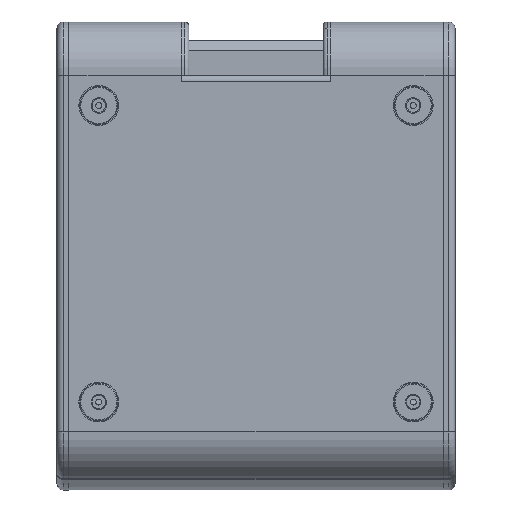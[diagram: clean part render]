
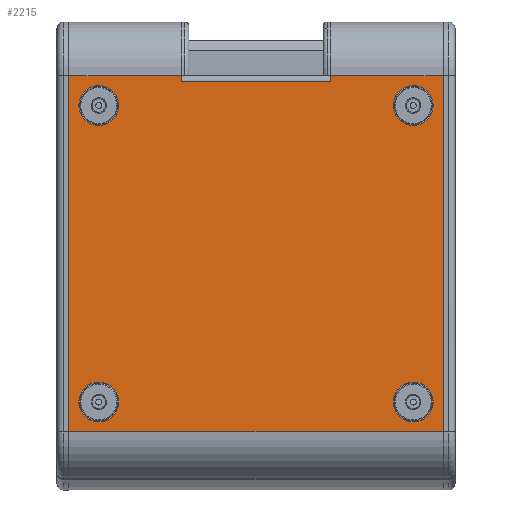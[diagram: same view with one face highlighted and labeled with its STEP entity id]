
A CAD part, front view. The second image highlights one B-rep face of the part: STEP entity #2215.
In plain terms, the highlighted planar face has unit normal (0, -1, 0).
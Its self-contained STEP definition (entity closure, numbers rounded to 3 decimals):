
#1817 = VERTEX_POINT ( 'NONE', #8006 ) ;
#1819 = EDGE_CURVE ( 'NONE', #1817, #1820, #8005, .T. ) ;
#1820 = VERTEX_POINT ( 'NONE', #8060 ) ;
#1833 = VERTEX_POINT ( 'NONE', #8032 ) ;
#1835 = EDGE_CURVE ( 'NONE', #1833, #1836, #8092, .T. ) ;
#1836 = VERTEX_POINT ( 'NONE', #8087 ) ;
#1863 = VERTEX_POINT ( 'NONE', #8149 ) ;
#1865 = EDGE_CURVE ( 'NONE', #1863, #1866, #8148, .T. ) ;
#1866 = VERTEX_POINT ( 'NONE', #8143 ) ;
#1879 = VERTEX_POINT ( 'NONE', #8182 ) ;
#1881 = EDGE_CURVE ( 'NONE', #1879, #1882, #8181, .T. ) ;
#1882 = VERTEX_POINT ( 'NONE', #8176 ) ;
#1945 = VERTEX_POINT ( 'NONE', #8290 ) ;
#1947 = EDGE_CURVE ( 'NONE', #1970, #1945, #8289, .T. ) ;
#1970 = VERTEX_POINT ( 'NONE', #8364 ) ;
#1977 = VERTEX_POINT ( 'NONE', #8353 ) ;
#1979 = EDGE_CURVE ( 'NONE', #4611, #1977, #8352, .T. ) ;
#2106 = EDGE_CURVE ( 'NONE', #4611, #2107, #8618, .T. ) ;
#2107 = VERTEX_POINT ( 'NONE', #8614 ) ;
#2136 = VERTEX_POINT ( 'NONE', #8628 ) ;
#2138 = EDGE_CURVE ( 'NONE', #1945, #2136, #8627, .T. ) ;
#2205 = ORIENTED_EDGE ( 'NONE', *, *, #2206, .F. ) ;
#2206 = EDGE_CURVE ( 'NONE', #1866, #1863, #8771, .T. ) ;
#2207 = ORIENTED_EDGE ( 'NONE', *, *, #1865, .F. ) ;
#2208 = EDGE_LOOP ( 'NONE', ( #2267, #2268, #2271, #2274, #2276, #2277, #2278, #2256 ) ) ;
#2215 = ADVANCED_FACE ( 'NONE', ( #8754, #8753, #8752, #8751, #8750 ), #8812, .F. ) ;
#2216 = EDGE_LOOP ( 'NONE', ( #2217, #2219 ) ) ;
#2217 = ORIENTED_EDGE ( 'NONE', *, *, #2218, .F. ) ;
#2218 = EDGE_CURVE ( 'NONE', #1836, #1833, #8807, .T. ) ;
#2219 = ORIENTED_EDGE ( 'NONE', *, *, #1835, .F. ) ;
#2220 = EDGE_LOOP ( 'NONE', ( #2280, #2282 ) ) ;
#2256 = ORIENTED_EDGE ( 'NONE', *, *, #2106, .F. ) ;
#2267 = ORIENTED_EDGE ( 'NONE', *, *, #1979, .T. ) ;
#2268 = ORIENTED_EDGE ( 'NONE', *, *, #2269, .T. ) ;
#2269 = EDGE_CURVE ( 'NONE', #1977, #2270, #8857, .T. ) ;
#2270 = VERTEX_POINT ( 'NONE', #8848 ) ;
#2271 = ORIENTED_EDGE ( 'NONE', *, *, #2272, .T. ) ;
#2272 = EDGE_CURVE ( 'NONE', #2270, #2273, #8847, .T. ) ;
#2273 = VERTEX_POINT ( 'NONE', #8906 ) ;
#2274 = ORIENTED_EDGE ( 'NONE', *, *, #2275, .T. ) ;
#2275 = EDGE_CURVE ( 'NONE', #2273, #1970, #8905, .T. ) ;
#2276 = ORIENTED_EDGE ( 'NONE', *, *, #1947, .T. ) ;
#2277 = ORIENTED_EDGE ( 'NONE', *, *, #2138, .T. ) ;
#2278 = ORIENTED_EDGE ( 'NONE', *, *, #2279, .F. ) ;
#2279 = EDGE_CURVE ( 'NONE', #2107, #2136, #8901, .T. ) ;
#2280 = ORIENTED_EDGE ( 'NONE', *, *, #2281, .F. ) ;
#2281 = EDGE_CURVE ( 'NONE', #1820, #1817, #8897, .T. ) ;
#2282 = ORIENTED_EDGE ( 'NONE', *, *, #1819, .F. ) ;
#2283 = EDGE_LOOP ( 'NONE', ( #2284, #2286 ) ) ;
#2284 = ORIENTED_EDGE ( 'NONE', *, *, #2285, .F. ) ;
#2285 = EDGE_CURVE ( 'NONE', #1882, #1879, #8892, .T. ) ;
#2286 = ORIENTED_EDGE ( 'NONE', *, *, #1881, .F. ) ;
#2287 = EDGE_LOOP ( 'NONE', ( #2205, #2207 ) ) ;
#4611 = VERTEX_POINT ( 'NONE', #12688 ) ;
#8001 = DIRECTION ( 'NONE',  ( 1., 0., 0. ) ) ;
#8002 = DIRECTION ( 'NONE',  ( 0., -1., 0. ) ) ;
#8003 = CARTESIAN_POINT ( 'NONE',  ( -188.709, -103.413, -346. ) ) ;
#8004 = AXIS2_PLACEMENT_3D ( 'NONE', #8003, #8002, #8001 ) ;
#8005 = CIRCLE ( 'NONE', #8004, 20. ) ;
#8006 = CARTESIAN_POINT ( 'NONE',  ( -168.709, -103.413, -346. ) ) ;
#8032 = CARTESIAN_POINT ( 'NONE',  ( 129.291, -103.413, -346. ) ) ;
#8060 = CARTESIAN_POINT ( 'NONE',  ( -208.709, -103.413, -346. ) ) ;
#8087 = CARTESIAN_POINT ( 'NONE',  ( 89.291, -103.413, -346. ) ) ;
#8088 = DIRECTION ( 'NONE',  ( 1., 0., 0. ) ) ;
#8089 = DIRECTION ( 'NONE',  ( 0., -1., 0. ) ) ;
#8090 = CARTESIAN_POINT ( 'NONE',  ( 109.291, -103.413, -346. ) ) ;
#8091 = AXIS2_PLACEMENT_3D ( 'NONE', #8090, #8089, #8088 ) ;
#8092 = CIRCLE ( 'NONE', #8091, 20. ) ;
#8143 = CARTESIAN_POINT ( 'NONE',  ( 89.291, -103.413, -30. ) ) ;
#8144 = DIRECTION ( 'NONE',  ( -1., 0., 0. ) ) ;
#8145 = DIRECTION ( 'NONE',  ( 0., -1., 0. ) ) ;
#8146 = CARTESIAN_POINT ( 'NONE',  ( 109.291, -103.413, -30. ) ) ;
#8147 = AXIS2_PLACEMENT_3D ( 'NONE', #8146, #8145, #8144 ) ;
#8148 = CIRCLE ( 'NONE', #8147, 20. ) ;
#8149 = CARTESIAN_POINT ( 'NONE',  ( 129.291, -103.413, -30. ) ) ;
#8176 = CARTESIAN_POINT ( 'NONE',  ( -208.709, -103.413, -30. ) ) ;
#8177 = DIRECTION ( 'NONE',  ( -1., 0., 0. ) ) ;
#8178 = DIRECTION ( 'NONE',  ( 0., -1., 0. ) ) ;
#8179 = CARTESIAN_POINT ( 'NONE',  ( -188.709, -103.413, -30. ) ) ;
#8180 = AXIS2_PLACEMENT_3D ( 'NONE', #8179, #8178, #8177 ) ;
#8181 = CIRCLE ( 'NONE', #8180, 20. ) ;
#8182 = CARTESIAN_POINT ( 'NONE',  ( -168.709, -103.413, -30. ) ) ;
#8286 = DIRECTION ( 'NONE',  ( 0., 0., 1. ) ) ;
#8287 = VECTOR ( 'NONE', #8286, 1000. ) ;
#8288 = CARTESIAN_POINT ( 'NONE',  ( 139.291, -103.413, -376. ) ) ;
#8289 = LINE ( 'NONE', #8288, #8287 ) ;
#8290 = CARTESIAN_POINT ( 'NONE',  ( 139.291, -103.413, 0. ) ) ;
#8349 = DIRECTION ( 'NONE',  ( 0., 0., 1. ) ) ;
#8350 = VECTOR ( 'NONE', #8349, 1000. ) ;
#8351 = CARTESIAN_POINT ( 'NONE',  ( 139.291, -103.413, -376. ) ) ;
#8352 = LINE ( 'NONE', #8351, #8350 ) ;
#8353 = CARTESIAN_POINT ( 'NONE',  ( 139.291, -103.413, -263. ) ) ;
#8364 = CARTESIAN_POINT ( 'NONE',  ( 139.291, -103.413, -113. ) ) ;
#8614 = CARTESIAN_POINT ( 'NONE',  ( -218.709, -103.413, -376. ) ) ;
#8615 = DIRECTION ( 'NONE',  ( -1., 0., 0. ) ) ;
#8616 = VECTOR ( 'NONE', #8615, 1000. ) ;
#8617 = CARTESIAN_POINT ( 'NONE',  ( 139.291, -103.413, -376. ) ) ;
#8618 = LINE ( 'NONE', #8617, #8616 ) ;
#8624 = DIRECTION ( 'NONE',  ( -1., 0., 0. ) ) ;
#8625 = VECTOR ( 'NONE', #8624, 1000. ) ;
#8626 = CARTESIAN_POINT ( 'NONE',  ( 139.291, -103.413, 0. ) ) ;
#8627 = LINE ( 'NONE', #8626, #8625 ) ;
#8628 = CARTESIAN_POINT ( 'NONE',  ( -218.709, -103.413, 0. ) ) ;
#8750 = FACE_OUTER_BOUND ( 'NONE', #2208, .T. ) ;
#8751 = FACE_BOUND ( 'NONE', #2287, .T. ) ;
#8752 = FACE_BOUND ( 'NONE', #2283, .T. ) ;
#8753 = FACE_BOUND ( 'NONE', #2220, .T. ) ;
#8754 = FACE_BOUND ( 'NONE', #2216, .T. ) ;
#8767 = DIRECTION ( 'NONE',  ( -1., 0., 0. ) ) ;
#8768 = DIRECTION ( 'NONE',  ( 0., -1., 0. ) ) ;
#8769 = CARTESIAN_POINT ( 'NONE',  ( 109.291, -103.413, -30. ) ) ;
#8770 = AXIS2_PLACEMENT_3D ( 'NONE', #8769, #8768, #8767 ) ;
#8771 = CIRCLE ( 'NONE', #8770, 20. ) ;
#8804 = DIRECTION ( 'NONE',  ( 1., 0., 0. ) ) ;
#8805 = DIRECTION ( 'NONE',  ( 0., -1., 0. ) ) ;
#8806 = AXIS2_PLACEMENT_3D ( 'NONE', #8813, #8805, #8804 ) ;
#8807 = CIRCLE ( 'NONE', #8806, 20. ) ;
#8808 = DIRECTION ( 'NONE',  ( 1., 0., 0. ) ) ;
#8809 = DIRECTION ( 'NONE',  ( 0., 1., 0. ) ) ;
#8810 = CARTESIAN_POINT ( 'NONE',  ( 139.291, -103.413, -376. ) ) ;
#8811 = AXIS2_PLACEMENT_3D ( 'NONE', #8810, #8809, #8808 ) ;
#8812 = PLANE ( 'NONE',  #8811 ) ;
#8813 = CARTESIAN_POINT ( 'NONE',  ( 109.291, -103.413, -346. ) ) ;
#8844 = DIRECTION ( 'NONE',  ( 0., 0., 1. ) ) ;
#8845 = VECTOR ( 'NONE', #8844, 1000. ) ;
#8846 = CARTESIAN_POINT ( 'NONE',  ( 133.791, -103.413, -113. ) ) ;
#8847 = LINE ( 'NONE', #8846, #8845 ) ;
#8848 = CARTESIAN_POINT ( 'NONE',  ( 133.791, -103.413, -263. ) ) ;
#8849 = DIRECTION ( 'NONE',  ( -1., 0., 0. ) ) ;
#8850 = VECTOR ( 'NONE', #8849, 1000. ) ;
#8851 = CARTESIAN_POINT ( 'NONE',  ( 139.291, -103.413, -263. ) ) ;
#8857 = LINE ( 'NONE', #8851, #8850 ) ;
#8888 = DIRECTION ( 'NONE',  ( -1., 0., 0. ) ) ;
#8889 = DIRECTION ( 'NONE',  ( 0., -1., 0. ) ) ;
#8890 = CARTESIAN_POINT ( 'NONE',  ( -188.709, -103.413, -30. ) ) ;
#8891 = AXIS2_PLACEMENT_3D ( 'NONE', #8890, #8889, #8888 ) ;
#8892 = CIRCLE ( 'NONE', #8891, 20. ) ;
#8893 = DIRECTION ( 'NONE',  ( 1., 0., 0. ) ) ;
#8894 = DIRECTION ( 'NONE',  ( 0., -1., 0. ) ) ;
#8895 = CARTESIAN_POINT ( 'NONE',  ( -188.709, -103.413, -346. ) ) ;
#8896 = AXIS2_PLACEMENT_3D ( 'NONE', #8895, #8894, #8893 ) ;
#8897 = CIRCLE ( 'NONE', #8896, 20. ) ;
#8898 = DIRECTION ( 'NONE',  ( 0., 0., 1. ) ) ;
#8899 = VECTOR ( 'NONE', #8898, 1000. ) ;
#8900 = CARTESIAN_POINT ( 'NONE',  ( -218.709, -103.413, -376. ) ) ;
#8901 = LINE ( 'NONE', #8900, #8899 ) ;
#8902 = DIRECTION ( 'NONE',  ( 1., 0., 0. ) ) ;
#8903 = VECTOR ( 'NONE', #8902, 1000. ) ;
#8904 = CARTESIAN_POINT ( 'NONE',  ( 206.513, -103.413, -113. ) ) ;
#8905 = LINE ( 'NONE', #8904, #8903 ) ;
#8906 = CARTESIAN_POINT ( 'NONE',  ( 133.791, -103.413, -113. ) ) ;
#12688 = CARTESIAN_POINT ( 'NONE',  ( 139.291, -103.413, -376. ) ) ;
